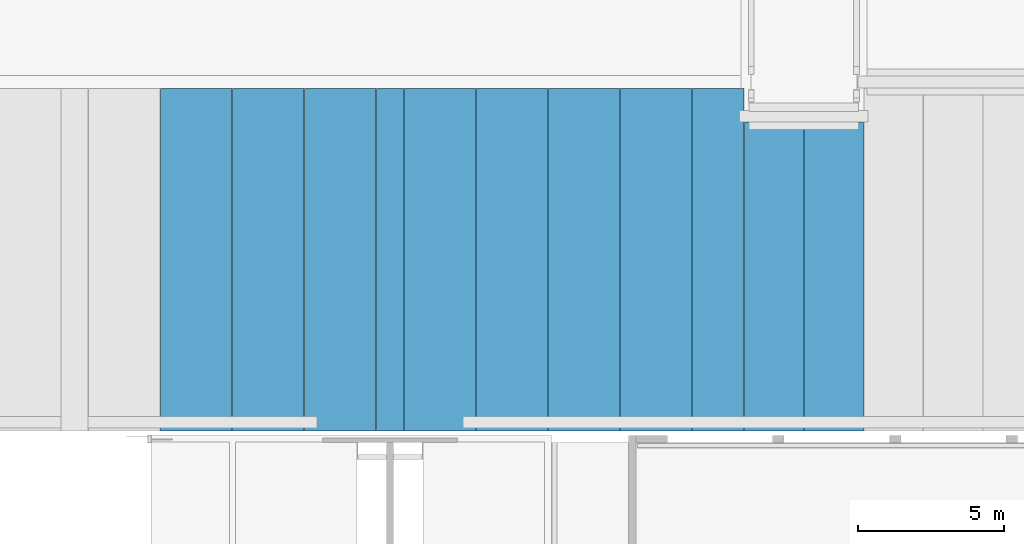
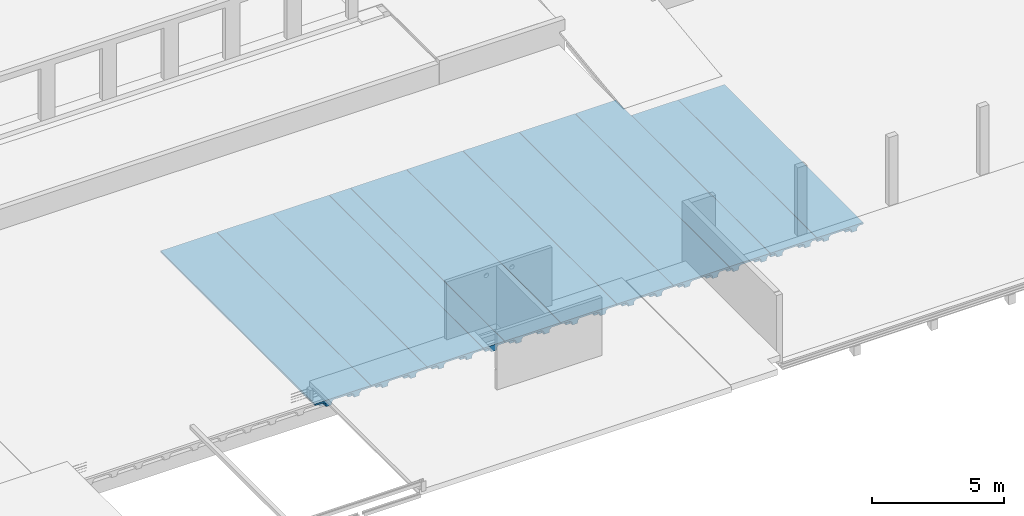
# One storey, part 30 of 36: 11 beams.
"""IFC2X3 building model written with IfcOpenShell, lengths in millimetres."""

import ifcopenshell
import ifcopenshell.guid

model = None  # the IFC model being written
_history = None  # IfcOwnerHistory: only IFC2X3 demands one
_inside = {}  # id of a spatial element -> (the spatial element, [elements in it])
_under = {}  # id of a project, library or spatial element -> (it, [spatial elements below it])
_declared = {}  # id of a project -> (the project, [libraries it declares])
_typed = {}  # id of a type object -> (the type object, [elements of that type])
_made_of = {}  # id of a material, layer set ... -> (it, [elements and type objects made of it])


def new_model(schema):
    """Start an empty IFC model of exactly this schema.

    Asked for "IFC4X3", IfcOpenShell would pick the latest addendum, in which some entities
    have other attributes; the version numbers below select the first issue.
    IFC2X3 requires an IfcOwnerHistory on every rooted entity: one is made here for all.
    """
    global model, _history
    if schema == "IFC4X3":
        model = ifcopenshell.file(schema_version=(4, 3, 0, 0))
    else:
        model = ifcopenshell.file(schema=schema)
    _inside.clear()
    _under.clear()
    _declared.clear()
    _typed.clear()
    _made_of.clear()
    _history = None
    if model.schema == "IFC2X3":
        org = make("IfcOrganization", Name="unknown")
        user = make(
            "IfcPersonAndOrganization",
            ThePerson=make("IfcPerson", FamilyName="unknown"),
            TheOrganization=org,
        )
        app = make(
            "IfcApplication",
            ApplicationDeveloper=org,
            Version="unknown",
            ApplicationFullName="unknown",
            ApplicationIdentifier="unknown",
        )
        _history = make(
            "IfcOwnerHistory",
            OwningUser=user,
            OwningApplication=app,
            ChangeAction="ADDED",
            CreationDate=0,
        )
    return model


def make(cls, **values):
    """One entity of the class cls with the attributes given. An attribute that is None is left unset."""
    return model.create_entity(
        cls, **{name: value for name, value in values.items() if value is not None}
    )


def entity(cls, *values):
    """Any entity or typed value of the class cls, its attributes in the order of the schema. None: left unset."""
    e = model.create_entity(cls)
    for i, value in enumerate(values):
        if value is not None:
            e[i] = value
    return e


def rooted(cls, **values):
    """An entity with a GlobalId (a new one), such as an element, a storey or a relation."""
    return make(cls, GlobalId=ifcopenshell.guid.new(), OwnerHistory=_history, **values)


def si_unit(unit_type, name, prefix=None):
    """IfcSIUnit, for example si_unit("LENGTHUNIT", "METRE", prefix="MILLI")."""
    return make("IfcSIUnit", UnitType=unit_type, Prefix=prefix, Name=name)


def converted_unit(unit_type, name, factor, base, dimensions=None, offset=None):
    """IfcConversionBasedUnit, such as the inch: factor (a typed value) times the base unit."""
    return make(
        "IfcConversionBasedUnit"
        if offset is None
        else "IfcConversionBasedUnitWithOffset",
        ConversionOffset=offset,
        Dimensions=None
        if dimensions is None
        else entity("IfcDimensionalExponents", *dimensions),
        UnitType=unit_type,
        Name=name,
        ConversionFactor=make(
            "IfcMeasureWithUnit", ValueComponent=factor, UnitComponent=base
        ),
    )


def derived_unit(unit_type, elements):
    """IfcDerivedUnit: a product of units, each with its exponent."""
    return make(
        "IfcDerivedUnit",
        Elements=[
            make("IfcDerivedUnitElement", Unit=unit, Exponent=power)
            for unit, power in elements
        ],
        UnitType=unit_type,
    )


def assignment(units):
    """IfcUnitAssignment: the units of a project."""
    return None if units is None else make("IfcUnitAssignment", Units=units)


def point(xyz):
    """IfcCartesianPoint."""
    return None if xyz is None else make("IfcCartesianPoint", Coordinates=xyz)


def direction(xyz):
    """IfcDirection."""
    return None if xyz is None else make("IfcDirection", DirectionRatios=xyz)


def frame(location, z_axis=None, x_axis=None):
    """IfcAxis2Placement3D, a coordinate frame: its origin and axes. An axis left out is left unset."""
    return make(
        "IfcAxis2Placement3D",
        Location=point(location),
        Axis=direction(z_axis),
        RefDirection=direction(x_axis),
    )


def origin():
    """The frame at (0, 0, 0) with its axes left unset."""
    return frame((0.0, 0.0, 0.0))


def place(relative_to, where):
    """IfcLocalPlacement: puts the frame where relative to a parent placement (None: the world)."""
    return make(
        "IfcLocalPlacement", PlacementRelTo=relative_to, RelativePlacement=where
    )


def context(
    kind, dimensions, precision=None, world=None, true_north=None, identifier=None
):
    """IfcGeometricRepresentationContext, for example the 3D "Model" context."""
    return make(
        "IfcGeometricRepresentationContext",
        ContextIdentifier=identifier,
        ContextType=kind,
        CoordinateSpaceDimension=dimensions,
        Precision=precision,
        WorldCoordinateSystem=world,
        TrueNorth=true_north,
    )


def subcontext(parent, identifier, kind, view, scale=None):
    """IfcGeometricRepresentationSubContext, for example "Body" below "Model"."""
    return make(
        "IfcGeometricRepresentationSubContext",
        ContextIdentifier=identifier,
        ContextType=kind,
        ParentContext=parent,
        TargetScale=scale,
        TargetView=view,
    )


def project(units=None, contexts=None):
    """IfcProject with its units and contexts."""
    return rooted(
        "IfcProject",
        Name="project",
        RepresentationContexts=contexts,
        UnitsInContext=assignment(units),
    )


def spatial(cls, under=None, at=None, **own):
    """A site, building, storey or space (cls), placed at a placement, below another one or the project."""
    s = rooted(cls, ObjectPlacement=at, **own)
    if under is not None:
        _under.setdefault(under.id(), (under, []))[1].append(s)
    return s


def faces_of(points, faces, orient=None, outer=None):
    """IfcFace entities. A face is a list of loops; a loop is a list of indices into points, from 0.

    orient and outer hold one flag for each loop. By default every Orientation is true, the
    first loop of a face is its IfcFaceOuterBound and the others are IfcFaceBound.
    """
    made = []
    for i, loops in enumerate(faces):
        bounds = []
        for j, loop in enumerate(loops):
            is_outer = j == 0 if outer is None else outer[i][j]
            bounds.append(
                make(
                    "IfcFaceOuterBound" if is_outer else "IfcFaceBound",
                    Bound=make("IfcPolyLoop", Polygon=[points[k] for k in loop]),
                    Orientation=True if orient is None else orient[i][j],
                )
            )
        made.append(make("IfcFace", Bounds=bounds))
    return made


def faceted_brep(points, faces, orient=None, outer=None, voids=None):
    """IfcFacetedBrep: a solid bounded by flat faces; with voids (closed shells), ...WithVoids."""
    shared = [point(p) for p in points]
    hull = make("IfcClosedShell", CfsFaces=faces_of(shared, faces, orient, outer))
    if voids is None:
        return make("IfcFacetedBrep", Outer=hull)
    return make(
        "IfcFacetedBrepWithVoids",
        Outer=hull,
        Voids=[
            make(cls, CfsFaces=faces_of(shared, fs, o, b)) for cls, fs, o, b in voids
        ],
    )


def shape(context_of_items, identifier, shape_type, items):
    """IfcShapeRepresentation: the items that make up one representation, for example the "Body"."""
    return make(
        "IfcShapeRepresentation",
        ContextOfItems=context_of_items,
        RepresentationIdentifier=identifier,
        RepresentationType=shape_type,
        Items=items,
    )


def material(Name=None, Category=None):
    """IfcMaterial."""
    return make("IfcMaterial", Name=Name, Category=Category)


def made_of(thing, what):
    """Note that an element or type object is made of a material, layer set ...; save() writes the relation."""
    if what is not None:
        _made_of.setdefault(what.id(), (what, []))[1].append(thing)
    return thing


def type_object(cls, material=None, **own):
    """A type object (cls), such as IfcWallType, which elements share."""
    return made_of(rooted(cls, **own), material)


def element(
    cls,
    number,
    at=None,
    inside=None,
    cuts=None,
    type_object=None,
    material=None,
    context=None,
    identifier="Body",
    shape_type=None,
    held_by="IfcProductDefinitionShape",
    body=None,
    shapes=None,
    **own,
):
    """One element of the class cls, such as IfcWall. Its Tag is "e" and its number.

    at: its placement. inside: the storey or other place that contains it. cuts: it is an
    opening in that element (IfcRelVoidsElement). A single representation is given by context,
    identifier, shape_type and body (its items); several are given by shapes. held_by: the class
    of the entity that holds the representations. save() writes the other relations.
    """
    e = rooted(cls, Tag="e%d" % number, ObjectPlacement=at, **own)
    if body is not None:
        shapes = [shape(context, identifier, shape_type, body)]
    if shapes is not None:
        e.Representation = make(held_by, Representations=shapes)
    if inside is not None:
        _inside.setdefault(inside.id(), (inside, []))[1].append(e)
    if cuts is not None:
        rooted(
            "IfcRelVoidsElement", RelatingBuildingElement=cuts, RelatedOpeningElement=e
        )
    if type_object is not None:
        _typed.setdefault(type_object.id(), (type_object, []))[1].append(e)
    return made_of(e, material)


def aggregate(whole, parts):
    """IfcRelAggregates: a whole, such as a stair, and the parts it consists of."""
    return rooted("IfcRelAggregates", RelatingObject=whole, RelatedObjects=parts)


def save(model, path):
    """Write the relations noted so far, then the file.

    IfcRelAggregates (storeys below a building ...), IfcRelContainedInSpatialStructure (elements
    in a storey), IfcRelDefinesByType, IfcRelAssociatesMaterial and IfcRelDeclares: one each for
    every whole, place, type object, material and project.
    """
    for whole, parts in _under.values():
        aggregate(whole, parts)
    for where, things in _inside.values():
        rooted(
            "IfcRelContainedInSpatialStructure",
            RelatedElements=things,
            RelatingStructure=where,
        )
    for kind, things in _typed.values():
        rooted("IfcRelDefinesByType", RelatedObjects=things, RelatingType=kind)
    for what, things in _made_of.values():
        rooted("IfcRelAssociatesMaterial", RelatedObjects=things, RelatingMaterial=what)
    for by, libraries in _declared.values():
        rooted("IfcRelDeclares", RelatingContext=by, RelatedDefinitions=libraries)
    model.write(path)


model = new_model("IFC2X3")

# Units and contexts
model_context = context("Model", 3, precision=0.01, world=origin(), true_north=direction((6.12303176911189e-17, 1.0)))
body_context = subcontext(model_context, "Body", "Model", "MODEL_VIEW")
ifc_project = project(units=[si_unit("LENGTHUNIT", "METRE", prefix="MILLI"), si_unit("AREAUNIT", "SQUARE_METRE"), si_unit("VOLUMEUNIT", "CUBIC_METRE"), converted_unit("PLANEANGLEUNIT", "DEGREE", entity("IfcRatioMeasure", 0.0174532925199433), si_unit("PLANEANGLEUNIT", "RADIAN"), dimensions=[0, 0, 0, 0, 0, 0, 0]), si_unit("MASSUNIT", "GRAM", prefix="KILO"), derived_unit("MASSDENSITYUNIT", [(si_unit("MASSUNIT", "GRAM", prefix="KILO"), 1), (si_unit("LENGTHUNIT", "METRE"), -3)]), si_unit("TIMEUNIT", "SECOND"), si_unit("FREQUENCYUNIT", "HERTZ"), si_unit("THERMODYNAMICTEMPERATUREUNIT", "DEGREE_CELSIUS"), derived_unit("THERMALTRANSMITTANCEUNIT", [(si_unit("MASSUNIT", "GRAM", prefix="KILO"), 1), (si_unit("THERMODYNAMICTEMPERATUREUNIT", "KELVIN"), -1), (si_unit("TIMEUNIT", "SECOND"), -3)]), derived_unit("VOLUMETRICFLOWRATEUNIT", [(si_unit("LENGTHUNIT", "METRE"), 3), (si_unit("TIMEUNIT", "SECOND"), -1)]), si_unit("ELECTRICCURRENTUNIT", "AMPERE"), si_unit("ELECTRICVOLTAGEUNIT", "VOLT"), si_unit("POWERUNIT", "WATT"), si_unit("FORCEUNIT", "NEWTON", prefix="KILO"), si_unit("ILLUMINANCEUNIT", "LUX"), si_unit("LUMINOUSFLUXUNIT", "LUMEN"), si_unit("LUMINOUSINTENSITYUNIT", "CANDELA"), derived_unit("USERDEFINED", [(si_unit("MASSUNIT", "GRAM", prefix="KILO"), -1), (si_unit("LENGTHUNIT", "METRE"), -2), (si_unit("TIMEUNIT", "SECOND"), 3), (si_unit("LUMINOUSFLUXUNIT", "LUMEN"), 1)]), derived_unit("LINEARVELOCITYUNIT", [(si_unit("LENGTHUNIT", "METRE"), 1), (si_unit("TIMEUNIT", "SECOND"), -1)]), si_unit("PRESSUREUNIT", "PASCAL"), derived_unit("USERDEFINED", [(si_unit("LENGTHUNIT", "METRE"), -2), (si_unit("MASSUNIT", "GRAM", prefix="KILO"), 1), (si_unit("TIMEUNIT", "SECOND"), -2)])], contexts=[model_context])

# Site, building, storey
site_placement = place(None, origin())
site = spatial("IfcSite", under=ifc_project, at=site_placement, Name="Default", CompositionType="ELEMENT")
building_placement = place(site_placement, origin())
building = spatial("IfcBuilding", under=site, at=building_placement, Name="niet gebruiken", CompositionType="ELEMENT")
storey_placement = place(building_placement, frame((0.0, 0.0, 12600.0)))
storey = spatial("IfcBuildingStorey", under=building, at=storey_placement, Name="04 vierde verdieping", CompositionType="ELEMENT", Elevation=12600.0)

# Beams
ifc_material = material(Name="NLRS_f2_beton prefab")
beam_type_1 = type_object("IfcBeamType", Name="NLRS_28.11_SF_WPB_tt-plaatvloer Holcon 102B_gen:TT-plaat, b=2460", PredefinedType="BEAM")
beam_1_placement = place(storey_placement, frame((102375.128403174, 8896.0, -1970.00005888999), z_axis=(0.0, 0.0, 1.0), x_axis=(0.0, -1.0, 0.0)))
element("IfcBeam", 1, at=beam_1_placement, inside=storey, type_object=beam_type_1, material=ifc_material, Name="NLRS_28.11_SF_WPB_tt-plaatvloer Holcon 102B_gen:TT-plaat, b=2460", ObjectType="NLRS_28.11_SF_WPB_tt-plaatvloer Holcon 102B_gen:TT-plaat, b=2460", context=body_context, shape_type="Brep", body=[
    faceted_brep([(-11730.0, 0.0, 610.0), (-11730.0, 0.0, 529.999995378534), (0.0, 0.0, 529.999995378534), (0.0, 0.0, 610.0), (-520.0, 733.513622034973, 320.0), (-520.0, 493.468888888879, 320.0), (-520.0, 518.500000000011, 0.0), (-520.0, 708.482510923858, 0.0), (-11480.0, 501.29111111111, 220.0), (-11480.0, 725.691399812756, 220.0), (-11480.0, 708.482510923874, 0.0), (-11480.0, 518.50000000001, 0.0), (-11730.0, 744.000076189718, 454.059783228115), (-11730.0, 819.940288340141, 529.999995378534), (0.0, 819.940288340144, 529.999995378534), (0.0, 744.000076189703, 454.059783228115), (-11730.0, 1971.01904939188, 454.078756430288), (-11730.0, 2046.94028834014, 529.999995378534), (0.0, 2046.94028834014, 529.999995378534), (0.0, 1971.01904939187, 454.078756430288), (-11730.0, 1634.05971165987, 529.999995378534), (-11730.0, 1709.99992381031, 454.059783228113), (0.0, 1709.99992381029, 454.059783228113), (0.0, 1634.05971165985, 529.999995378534), (-11730.0, 2454.0, 610.0), (-11730.0, 2454.0, 529.999995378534), (-11730.0, 1952.7088888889, 220.0), (-11730.0, 1728.30860018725, 220.0), (-11730.0, 725.691399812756, 220.0), (-11730.0, 501.291111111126, 220.0), (-11730.0, 482.980950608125, 454.078756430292), (-11730.0, 407.059711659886, 529.999995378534), (0.0, 407.059711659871, 529.999995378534), (0.0, 482.980950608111, 454.078756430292), (0.0, 493.46888888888, 320.0), (0.0, 733.513622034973, 320.0), (0.0, 1720.48637796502, 320.0), (0.0, 1960.5311111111, 320.0), (0.0, 2454.0, 529.999995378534), (0.0, 2454.0, 610.0), (-520.0, 1935.5, 0.0), (-520.0, 1745.51748907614, 0.0), (-11480.0, 1745.51748907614, 0.0), (-11480.0, 1935.5, 0.0), (-520.0, 1960.53111111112, 320.0), (-11480.0, 1952.7088888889, 220.0), (-11480.0, 1728.30860018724, 220.0), (-520.0, 1720.48637796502, 320.0)], [[[0, 1, 2, 3]], [[4, 5, 6, 7]], [[8, 9, 10, 11]], [[12, 13, 14, 15]], [[16, 17, 18, 19]], [[20, 21, 22, 23]], [[0, 24, 25, 17, 16, 26, 27, 21, 20, 13, 12, 28, 29, 30, 31, 1]], [[3, 2, 32, 33, 34, 35, 15, 14, 23, 22, 36, 37, 19, 18, 38, 39]], [[1, 31, 32, 2]], [[24, 0, 3, 39]], [[25, 24, 39, 38]], [[17, 25, 38, 18]], [[13, 20, 23, 14]], [[40, 41, 42, 43]], [[16, 19, 37, 44, 40, 43, 45, 26]], [[22, 21, 27, 46, 42, 41, 47, 36]], [[12, 15, 35, 4, 7, 10, 9, 28]], [[7, 6, 11, 10]], [[33, 30, 29, 8, 11, 6, 5, 34]], [[5, 4, 35, 34]], [[9, 8, 29, 28]], [[31, 30, 33, 32]], [[46, 45, 43, 42]], [[45, 46, 27, 26]], [[44, 47, 41, 40]], [[47, 44, 37, 36]]]),
])
beam_2_placement = place(storey_placement, frame((99908.0, 8896.0, -1970.00005888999), z_axis=(0.0, 0.0, 1.0), x_axis=(0.0, -1.0, 0.0)))
element("IfcBeam", 2, at=beam_2_placement, inside=storey, type_object=beam_type_1, material=ifc_material, Name="NLRS_28.11_SF_WPB_tt-plaatvloer Holcon 102B_gen:TT-plaat, b=2460", ObjectType="NLRS_28.11_SF_WPB_tt-plaatvloer Holcon 102B_gen:TT-plaat, b=2460", context=body_context, shape_type="Brep", body=[
    faceted_brep([(-11730.0, 0.0, 610.0), (-11730.0, 0.0, 529.999995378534), (0.0, 0.0, 529.999995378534), (0.0, 0.0, 610.0), (-520.0, 733.513622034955, 320.0), (-520.0, 493.468888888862, 320.0), (-520.0, 518.499999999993, 0.0), (-520.0, 708.482510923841, 0.0), (-11480.0, 501.291111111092, 220.0), (-11480.0, 725.691399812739, 220.0), (-11480.0, 708.482510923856, 0.0), (-11480.0, 518.499999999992, 0.0), (-11730.0, 744.000076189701, 454.059783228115), (-11730.0, 819.940288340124, 529.999995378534), (0.0, 819.940288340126, 529.999995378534), (0.0, 744.000076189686, 454.059783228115), (-11730.0, 1971.01904939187, 454.078756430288), (-11730.0, 2046.94028834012, 529.999995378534), (0.0, 2046.94028834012, 529.999995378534), (0.0, 1971.01904939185, 454.078756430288), (-11730.0, 1634.05971165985, 529.999995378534), (-11730.0, 1709.99992381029, 454.059783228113), (0.0, 1709.99992381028, 454.059783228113), (0.0, 1634.05971165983, 529.999995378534), (-11730.0, 2454.0, 610.0), (-11730.0, 2454.0, 529.999995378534), (-11730.0, 1952.70888888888, 220.0), (-11730.0, 1728.30860018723, 220.0), (-11730.0, 725.691399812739, 220.0), (-11730.0, 501.291111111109, 220.0), (-11730.0, 482.980950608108, 454.078756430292), (-11730.0, 407.059711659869, 529.999995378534), (0.0, 407.059711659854, 529.999995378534), (0.0, 482.980950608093, 454.078756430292), (0.0, 493.468888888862, 320.0), (0.0, 733.513622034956, 320.0), (0.0, 1720.48637796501, 320.0), (0.0, 1960.53111111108, 320.0), (0.0, 2454.0, 529.999995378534), (0.0, 2454.0, 610.0), (-520.0, 1935.49999999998, 0.0), (-520.0, 1745.51748907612, 0.0), (-11480.0, 1745.51748907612, 0.0), (-11480.0, 1935.49999999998, 0.0), (-520.0, 1960.5311111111, 320.0), (-11480.0, 1952.70888888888, 220.0), (-11480.0, 1728.30860018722, 220.0), (-520.0, 1720.486377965, 320.0)], [[[0, 1, 2, 3]], [[4, 5, 6, 7]], [[8, 9, 10, 11]], [[12, 13, 14, 15]], [[16, 17, 18, 19]], [[20, 21, 22, 23]], [[0, 24, 25, 17, 16, 26, 27, 21, 20, 13, 12, 28, 29, 30, 31, 1]], [[3, 2, 32, 33, 34, 35, 15, 14, 23, 22, 36, 37, 19, 18, 38, 39]], [[1, 31, 32, 2]], [[24, 0, 3, 39]], [[25, 24, 39, 38]], [[17, 25, 38, 18]], [[13, 20, 23, 14]], [[40, 41, 42, 43]], [[16, 19, 37, 44, 40, 43, 45, 26]], [[22, 21, 27, 46, 42, 41, 47, 36]], [[12, 15, 35, 4, 7, 10, 9, 28]], [[7, 6, 11, 10]], [[33, 30, 29, 8, 11, 6, 5, 34]], [[5, 4, 35, 34]], [[9, 8, 29, 28]], [[31, 30, 33, 32]], [[45, 46, 27, 26]], [[47, 44, 37, 36]], [[46, 45, 43, 42]], [[44, 47, 41, 40]]]),
])
beam_3_placement = place(storey_placement, frame((97441.2224677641, 8896.0, -1970.00005889), z_axis=(0.0, 0.0, 1.0), x_axis=(0.0, -1.0, 0.0)))
element("IfcBeam", 3, at=beam_3_placement, inside=storey, type_object=beam_type_1, material=ifc_material, Name="NLRS_28.11_SF_WPB_tt-plaatvloer Holcon 102B_gen:TT-plaat, b=2460", ObjectType="NLRS_28.11_SF_WPB_tt-plaatvloer Holcon 102B_gen:TT-plaat, b=2460", context=body_context, shape_type="Brep", body=[
    faceted_brep([(-11730.0, 0.0, 610.0), (-11730.0, 0.0, 529.999995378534), (0.0, 0.0, 529.999995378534), (0.0, 0.0, 610.0), (-520.0, 733.513622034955, 320.0), (-520.0, 493.468888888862, 320.0), (-520.0, 518.499999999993, 0.0), (-520.0, 708.482510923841, 0.0), (-11480.0, 501.291111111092, 220.0), (-11480.0, 725.691399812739, 220.0), (-11480.0, 708.482510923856, 0.0), (-11480.0, 518.499999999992, 0.0), (-11730.0, 744.000076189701, 454.059783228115), (-11730.0, 819.940288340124, 529.999995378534), (0.0, 819.940288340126, 529.999995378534), (0.0, 744.000076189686, 454.059783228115), (-11730.0, 1971.01904939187, 454.078756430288), (-11730.0, 2046.94028834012, 529.999995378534), (0.0, 2046.94028834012, 529.999995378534), (0.0, 1971.01904939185, 454.078756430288), (-11730.0, 1634.05971165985, 529.999995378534), (-11730.0, 1709.99992381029, 454.059783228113), (0.0, 1709.99992381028, 454.059783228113), (0.0, 1634.05971165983, 529.999995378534), (-11730.0, 2454.0, 610.0), (-11730.0, 2454.0, 529.999995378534), (-11730.0, 1952.70888888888, 220.0), (-11730.0, 1728.30860018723, 220.0), (-11730.0, 725.691399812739, 220.0), (-11730.0, 501.291111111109, 220.0), (-11730.0, 482.980950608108, 454.078756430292), (-11730.0, 407.059711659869, 529.999995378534), (0.0, 407.059711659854, 529.999995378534), (0.0, 482.980950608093, 454.078756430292), (0.0, 493.468888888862, 320.0), (0.0, 733.513622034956, 320.0), (0.0, 1720.48637796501, 320.0), (0.0, 1960.53111111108, 320.0), (0.0, 2454.0, 529.999995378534), (0.0, 2454.0, 610.0), (-520.0, 1935.49999999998, 0.0), (-520.0, 1745.51748907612, 0.0), (-11480.0, 1745.51748907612, 0.0), (-11480.0, 1935.49999999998, 0.0), (-520.0, 1960.5311111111, 320.0), (-11480.0, 1952.70888888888, 220.0), (-11480.0, 1728.30860018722, 220.0), (-520.0, 1720.486377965, 320.0)], [[[0, 1, 2, 3]], [[4, 5, 6, 7]], [[8, 9, 10, 11]], [[12, 13, 14, 15]], [[16, 17, 18, 19]], [[20, 21, 22, 23]], [[0, 24, 25, 17, 16, 26, 27, 21, 20, 13, 12, 28, 29, 30, 31, 1]], [[3, 2, 32, 33, 34, 35, 15, 14, 23, 22, 36, 37, 19, 18, 38, 39]], [[1, 31, 32, 2]], [[24, 0, 3, 39]], [[25, 24, 39, 38]], [[17, 25, 38, 18]], [[13, 20, 23, 14]], [[40, 41, 42, 43]], [[16, 19, 37, 44, 40, 43, 45, 26]], [[22, 21, 27, 46, 42, 41, 47, 36]], [[12, 15, 35, 4, 7, 10, 9, 28]], [[7, 6, 11, 10]], [[33, 30, 29, 8, 11, 6, 5, 34]], [[5, 4, 35, 34]], [[9, 8, 29, 28]], [[31, 30, 33, 32]], [[44, 47, 41, 40]], [[46, 45, 43, 42]], [[47, 44, 37, 36]], [[45, 46, 27, 26]]]),
])
beam_4_placement = place(storey_placement, frame((94974.1969365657, 8896.0, -1970.00005889), z_axis=(0.0, 0.0, 1.0), x_axis=(0.0, -1.0, 0.0)))
element("IfcBeam", 4, at=beam_4_placement, inside=storey, type_object=beam_type_1, material=ifc_material, Name="NLRS_28.11_SF_WPB_tt-plaatvloer Holcon 102B_gen:TT-plaat, b=2460", ObjectType="NLRS_28.11_SF_WPB_tt-plaatvloer Holcon 102B_gen:TT-plaat, b=2460", context=body_context, shape_type="Brep", body=[
    faceted_brep([(-11730.0, 0.0, 610.0), (-11730.0, 0.0, 529.999995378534), (0.0, 0.0, 529.999995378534), (0.0, 0.0, 610.0), (-520.0, 733.513622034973, 320.0), (-520.0, 493.468888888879, 320.0), (-520.0, 518.500000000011, 0.0), (-520.0, 708.482510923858, 0.0), (-11480.0, 501.29111111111, 220.0), (-11480.0, 725.691399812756, 220.0), (-11480.0, 708.482510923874, 0.0), (-11480.0, 518.50000000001, 0.0), (-11730.0, 744.000076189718, 454.059783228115), (-11730.0, 819.940288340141, 529.999995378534), (0.0, 819.940288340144, 529.999995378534), (0.0, 744.000076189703, 454.059783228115), (-11730.0, 1971.01904939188, 454.078756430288), (-11730.0, 2046.94028834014, 529.999995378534), (0.0, 2046.94028834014, 529.999995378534), (0.0, 1971.01904939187, 454.078756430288), (-11730.0, 1634.05971165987, 529.999995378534), (-11730.0, 1709.99992381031, 454.059783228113), (0.0, 1709.99992381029, 454.059783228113), (0.0, 1634.05971165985, 529.999995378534), (-11730.0, 2454.0, 610.0), (-11730.0, 2454.0, 529.999995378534), (-11730.0, 1952.7088888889, 220.0), (-11730.0, 1728.30860018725, 220.0), (-11730.0, 725.691399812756, 220.0), (-11730.0, 501.291111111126, 220.0), (-11730.0, 482.980950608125, 454.078756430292), (-11730.0, 407.059711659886, 529.999995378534), (0.0, 407.059711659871, 529.999995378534), (0.0, 482.980950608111, 454.078756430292), (0.0, 493.46888888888, 320.0), (0.0, 733.513622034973, 320.0), (0.0, 1720.48637796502, 320.0), (0.0, 1960.5311111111, 320.0), (0.0, 2454.0, 529.999995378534), (0.0, 2454.0, 610.0), (-520.0, 1935.5, 0.0), (-520.0, 1745.51748907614, 0.0), (-11480.0, 1745.51748907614, 0.0), (-11480.0, 1935.5, 0.0), (-520.0, 1960.53111111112, 320.0), (-11480.0, 1952.7088888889, 220.0), (-11480.0, 1728.30860018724, 220.0), (-520.0, 1720.48637796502, 320.0)], [[[0, 1, 2, 3]], [[4, 5, 6, 7]], [[8, 9, 10, 11]], [[12, 13, 14, 15]], [[16, 17, 18, 19]], [[20, 21, 22, 23]], [[0, 24, 25, 17, 16, 26, 27, 21, 20, 13, 12, 28, 29, 30, 31, 1]], [[3, 2, 32, 33, 34, 35, 15, 14, 23, 22, 36, 37, 19, 18, 38, 39]], [[1, 31, 32, 2]], [[24, 0, 3, 39]], [[25, 24, 39, 38]], [[17, 25, 38, 18]], [[13, 20, 23, 14]], [[40, 41, 42, 43]], [[16, 19, 37, 44, 40, 43, 45, 26]], [[22, 21, 27, 46, 42, 41, 47, 36]], [[12, 15, 35, 4, 7, 10, 9, 28]], [[7, 6, 11, 10]], [[33, 30, 29, 8, 11, 6, 5, 34]], [[5, 4, 35, 34]], [[9, 8, 29, 28]], [[31, 30, 33, 32]], [[47, 44, 37, 36]], [[46, 45, 43, 42]], [[44, 47, 41, 40]], [[45, 46, 27, 26]]]),
])
beam_5_placement = place(storey_placement, frame((91573.7812462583, 8896.0, -1970.0), z_axis=(0.0, 0.0, 1.0), x_axis=(0.0, -1.0, 0.0)))
element("IfcBeam", 5, at=beam_5_placement, inside=storey, type_object=beam_type_1, material=ifc_material, Name="NLRS_28.11_SF_WPB_tt-plaatvloer Holcon 102B_gen:TT-plaat, b=2460", ObjectType="NLRS_28.11_SF_WPB_tt-plaatvloer Holcon 102B_gen:TT-plaat, b=2460", context=body_context, shape_type="Brep", body=[
    faceted_brep([(-11730.0, 0.0, 610.0), (-11730.0, 0.0, 529.999995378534), (0.0, 0.0, 529.999995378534), (0.0, 0.0, 610.0), (-520.0, 733.513622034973, 320.0), (-520.0, 493.468888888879, 320.0), (-520.0, 518.500000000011, 0.0), (-520.0, 708.482510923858, 0.0), (-11480.0, 501.29111111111, 220.0), (-11480.0, 725.691399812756, 220.0), (-11480.0, 708.482510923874, 0.0), (-11480.0, 518.50000000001, 0.0), (-11730.0, 744.000076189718, 454.059783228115), (-11730.0, 819.940288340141, 529.999995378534), (0.0, 819.940288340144, 529.999995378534), (0.0, 744.000076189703, 454.059783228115), (-11730.0, 1971.01904939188, 454.078756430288), (-11730.0, 2046.94028834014, 529.999995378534), (0.0, 2046.94028834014, 529.999995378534), (0.0, 1971.01904939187, 454.078756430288), (-11730.0, 1634.05971165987, 529.999995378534), (-11730.0, 1709.99992381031, 454.059783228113), (0.0, 1709.99992381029, 454.059783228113), (0.0, 1634.05971165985, 529.999995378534), (-11730.0, 2454.0, 610.0), (-11730.0, 2454.0, 529.999995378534), (-11730.0, 1952.7088888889, 220.0), (-11730.0, 1728.30860018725, 220.0), (-11730.0, 725.691399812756, 220.0), (-11730.0, 501.291111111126, 220.0), (-11730.0, 482.980950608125, 454.078756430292), (-11730.0, 407.059711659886, 529.999995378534), (0.0, 407.059711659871, 529.999995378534), (0.0, 482.980950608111, 454.078756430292), (0.0, 493.46888888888, 320.0), (0.0, 733.513622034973, 320.0), (0.0, 1720.48637796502, 320.0), (0.0, 1960.5311111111, 320.0), (0.0, 2454.0, 529.999995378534), (0.0, 2454.0, 610.0), (-520.0, 1935.5, 0.0), (-520.0, 1745.51748907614, 0.0), (-11480.0, 1745.51748907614, 0.0), (-11480.0, 1935.5, 0.0), (-520.0, 1960.53111111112, 320.0), (-11480.0, 1952.7088888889, 220.0), (-11480.0, 1728.30860018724, 220.0), (-520.0, 1720.48637796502, 320.0)], [[[0, 1, 2, 3]], [[4, 5, 6, 7]], [[8, 9, 10, 11]], [[12, 13, 14, 15]], [[16, 17, 18, 19]], [[20, 21, 22, 23]], [[0, 24, 25, 17, 16, 26, 27, 21, 20, 13, 12, 28, 29, 30, 31, 1]], [[3, 2, 32, 33, 34, 35, 15, 14, 23, 22, 36, 37, 19, 18, 38, 39]], [[1, 31, 32, 2]], [[24, 0, 3, 39]], [[25, 24, 39, 38]], [[17, 25, 38, 18]], [[13, 20, 23, 14]], [[40, 41, 42, 43]], [[16, 19, 37, 44, 40, 43, 45, 26]], [[22, 21, 27, 46, 42, 41, 47, 36]], [[12, 15, 35, 4, 7, 10, 9, 28]], [[7, 6, 11, 10]], [[33, 30, 29, 8, 11, 6, 5, 34]], [[5, 4, 35, 34]], [[9, 8, 29, 28]], [[31, 30, 33, 32]], [[44, 47, 41, 40]], [[46, 45, 43, 42]], [[47, 44, 37, 36]], [[45, 46, 27, 26]]]),
])
beam_6_placement = place(storey_placement, frame((89107.4075855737, 8896.0, -1970.0), z_axis=(0.0, 0.0, 1.0), x_axis=(0.0, -1.0, 0.0)))
element("IfcBeam", 6, at=beam_6_placement, inside=storey, type_object=beam_type_1, material=ifc_material, Name="NLRS_28.11_SF_WPB_tt-plaatvloer Holcon 102B_gen:TT-plaat, b=2460", ObjectType="NLRS_28.11_SF_WPB_tt-plaatvloer Holcon 102B_gen:TT-plaat, b=2460", context=body_context, shape_type="Brep", body=[
    faceted_brep([(-11730.0, 0.0, 610.0), (-11730.0, 0.0, 529.999995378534), (0.0, 0.0, 529.999995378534), (0.0, 0.0, 610.0), (-520.0, 733.513622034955, 320.0), (-520.0, 493.468888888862, 320.0), (-520.0, 518.499999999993, 0.0), (-520.0, 708.482510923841, 0.0), (-11480.0, 501.291111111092, 220.0), (-11480.0, 725.691399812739, 220.0), (-11480.0, 708.482510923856, 0.0), (-11480.0, 518.499999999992, 0.0), (-11730.0, 744.000076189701, 454.059783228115), (-11730.0, 819.940288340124, 529.999995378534), (0.0, 819.940288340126, 529.999995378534), (0.0, 744.000076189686, 454.059783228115), (-11730.0, 1971.01904939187, 454.078756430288), (-11730.0, 2046.94028834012, 529.999995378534), (0.0, 2046.94028834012, 529.999995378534), (0.0, 1971.01904939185, 454.078756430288), (-11730.0, 1634.05971165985, 529.999995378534), (-11730.0, 1709.99992381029, 454.059783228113), (0.0, 1709.99992381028, 454.059783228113), (0.0, 1634.05971165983, 529.999995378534), (-11730.0, 2454.0, 610.0), (-11730.0, 2454.0, 529.999995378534), (-11730.0, 1952.70888888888, 220.0), (-11730.0, 1728.30860018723, 220.0), (-11730.0, 725.691399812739, 220.0), (-11730.0, 501.291111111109, 220.0), (-11730.0, 482.980950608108, 454.078756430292), (-11730.0, 407.059711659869, 529.999995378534), (0.0, 407.059711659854, 529.999995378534), (0.0, 482.980950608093, 454.078756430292), (0.0, 493.468888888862, 320.0), (0.0, 733.513622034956, 320.0), (0.0, 1720.48637796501, 320.0), (0.0, 1960.53111111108, 320.0), (0.0, 2454.0, 529.999995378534), (0.0, 2454.0, 610.0), (-520.0, 1935.49999999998, 0.0), (-520.0, 1745.51748907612, 0.0), (-11480.0, 1745.51748907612, 0.0), (-11480.0, 1935.49999999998, 0.0), (-520.0, 1960.5311111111, 320.0), (-11480.0, 1952.70888888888, 220.0), (-11480.0, 1728.30860018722, 220.0), (-520.0, 1720.486377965, 320.0)], [[[0, 1, 2, 3]], [[4, 5, 6, 7]], [[8, 9, 10, 11]], [[12, 13, 14, 15]], [[16, 17, 18, 19]], [[20, 21, 22, 23]], [[0, 24, 25, 17, 16, 26, 27, 21, 20, 13, 12, 28, 29, 30, 31, 1]], [[3, 2, 32, 33, 34, 35, 15, 14, 23, 22, 36, 37, 19, 18, 38, 39]], [[1, 31, 32, 2]], [[24, 0, 3, 39]], [[25, 24, 39, 38]], [[17, 25, 38, 18]], [[13, 20, 23, 14]], [[40, 41, 42, 43]], [[16, 19, 37, 44, 40, 43, 45, 26]], [[22, 21, 27, 46, 42, 41, 47, 36]], [[12, 15, 35, 4, 7, 10, 9, 28]], [[7, 6, 11, 10]], [[33, 30, 29, 8, 11, 6, 5, 34]], [[5, 4, 35, 34]], [[9, 8, 29, 28]], [[31, 30, 33, 32]], [[44, 47, 41, 40]], [[46, 45, 43, 42]], [[47, 44, 37, 36]], [[45, 46, 27, 26]]]),
])
beam_7_placement = place(storey_placement, frame((86640.2248828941, 8896.0, -1970.0), z_axis=(0.0, 0.0, 1.0), x_axis=(0.0, -1.0, 0.0)))
element("IfcBeam", 7, at=beam_7_placement, inside=storey, type_object=beam_type_1, material=ifc_material, Name="NLRS_28.11_SF_WPB_tt-plaatvloer Holcon 102B_gen:TT-plaat, b=2460", ObjectType="NLRS_28.11_SF_WPB_tt-plaatvloer Holcon 102B_gen:TT-plaat, b=2460", context=body_context, shape_type="Brep", body=[
    faceted_brep([(-11730.0, 0.0, 610.0), (-11730.0, 0.0, 529.999995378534), (0.0, 0.0, 529.999995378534), (0.0, 0.0, 610.0), (-520.0, 733.513622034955, 320.0), (-520.0, 493.468888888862, 320.0), (-520.0, 518.499999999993, 0.0), (-520.0, 708.482510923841, 0.0), (-11480.0, 501.291111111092, 220.0), (-11480.0, 725.691399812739, 220.0), (-11480.0, 708.482510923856, 0.0), (-11480.0, 518.499999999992, 0.0), (-11730.0, 744.000076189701, 454.059783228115), (-11730.0, 819.940288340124, 529.999995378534), (0.0, 819.940288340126, 529.999995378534), (0.0, 744.000076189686, 454.059783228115), (-11730.0, 1971.01904939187, 454.078756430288), (-11730.0, 2046.94028834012, 529.999995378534), (0.0, 2046.94028834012, 529.999995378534), (0.0, 1971.01904939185, 454.078756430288), (-11730.0, 1634.05971165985, 529.999995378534), (-11730.0, 1709.99992381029, 454.059783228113), (0.0, 1709.99992381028, 454.059783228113), (0.0, 1634.05971165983, 529.999995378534), (-11730.0, 2454.0, 610.0), (-11730.0, 2454.0, 529.999995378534), (-11730.0, 1952.70888888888, 220.0), (-11730.0, 1728.30860018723, 220.0), (-11730.0, 725.691399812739, 220.0), (-11730.0, 501.291111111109, 220.0), (-11730.0, 482.980950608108, 454.078756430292), (-11730.0, 407.059711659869, 529.999995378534), (0.0, 407.059711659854, 529.999995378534), (0.0, 482.980950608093, 454.078756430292), (0.0, 493.468888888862, 320.0), (0.0, 733.513622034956, 320.0), (0.0, 1720.48637796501, 320.0), (0.0, 1960.53111111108, 320.0), (0.0, 2454.0, 529.999995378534), (0.0, 2454.0, 610.0), (-520.0, 1935.49999999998, 0.0), (-520.0, 1745.51748907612, 0.0), (-11480.0, 1745.51748907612, 0.0), (-11480.0, 1935.49999999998, 0.0), (-520.0, 1960.5311111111, 320.0), (-11480.0, 1952.70888888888, 220.0), (-11480.0, 1728.30860018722, 220.0), (-520.0, 1720.486377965, 320.0)], [[[0, 1, 2, 3]], [[4, 5, 6, 7]], [[8, 9, 10, 11]], [[12, 13, 14, 15]], [[16, 17, 18, 19]], [[20, 21, 22, 23]], [[0, 24, 25, 17, 16, 26, 27, 21, 20, 13, 12, 28, 29, 30, 31, 1]], [[3, 2, 32, 33, 34, 35, 15, 14, 23, 22, 36, 37, 19, 18, 38, 39]], [[1, 31, 32, 2]], [[24, 0, 3, 39]], [[25, 24, 39, 38]], [[17, 25, 38, 18]], [[13, 20, 23, 14]], [[40, 41, 42, 43]], [[16, 19, 37, 44, 40, 43, 45, 26]], [[22, 21, 27, 46, 42, 41, 47, 36]], [[12, 15, 35, 4, 7, 10, 9, 28]], [[7, 6, 11, 10]], [[33, 30, 29, 8, 11, 6, 5, 34]], [[5, 4, 35, 34]], [[9, 8, 29, 28]], [[31, 30, 33, 32]], [[45, 46, 27, 26]], [[47, 44, 37, 36]], [[46, 45, 43, 42]], [[44, 47, 41, 40]]]),
])
beam_type_2 = type_object("IfcBeamType", Name="NLRS_28.11_SF_WPB_tt-plaatvloer Holcon 102B_gen:TT-plaat, b=2040", PredefinedType="BEAM")
beam_8_placement = place(storey_placement, frame((108681.372427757, 8896.0, -1970.00005888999), z_axis=(0.0, 0.0, 1.0), x_axis=(0.0, -1.0, 0.0)))
element("IfcBeam", 8, at=beam_8_placement, inside=storey, type_object=beam_type_2, material=ifc_material, Name="NLRS_28.11_SF_WPB_tt-plaatvloer Holcon 102B_gen:TT-plaat, b=2040", ObjectType="NLRS_28.11_SF_WPB_tt-plaatvloer Holcon 102B_gen:TT-plaat, b=2040", context=body_context, shape_type="Brep", body=[
    faceted_brep([(-10560.0, 0.0, 610.0), (-10560.0, 0.0, 529.999995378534), (0.0, 0.0, 529.999995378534), (0.0, 0.0, 610.0), (-520.0, 523.513622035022, 320.0), (-520.0, 283.468888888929, 320.0), (-520.0, 308.500000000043, 0.0), (-520.0, 498.48251092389, 0.0), (-10310.0, 291.291111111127, 220.0), (-10310.0, 515.691399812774, 220.0), (-10310.0, 498.482510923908, 0.0), (-10310.0, 308.500000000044, 0.0), (-10560.0, 534.000076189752, 454.059783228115), (-10560.0, 609.940288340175, 529.999995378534), (0.0, 609.940288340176, 529.999995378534), (0.0, 534.000076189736, 454.059783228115), (-10560.0, 1761.01904939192, 454.078756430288), (-10560.0, 1836.94028834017, 529.999995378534), (0.0, 1836.94028834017, 529.999995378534), (0.0, 1761.0190493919, 454.078756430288), (-10560.0, 1424.0597116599, 529.999995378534), (-10560.0, 1499.99992381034, 454.059783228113), (0.0, 1499.99992381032, 454.059783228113), (0.0, 1424.05971165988, 529.999995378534), (-10560.0, 2034.0, 610.0), (-10560.0, 2034.0, 529.999995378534), (-10560.0, 1742.70888888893, 220.0), (-10560.0, 1518.30860018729, 220.0), (-10560.0, 515.69139981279, 220.0), (-10560.0, 291.291111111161, 220.0), (-10560.0, 272.98095060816, 454.078756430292), (-10560.0, 197.05971165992, 529.999995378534), (0.0, 197.059711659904, 529.999995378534), (0.0, 272.980950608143, 454.078756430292), (0.0, 283.468888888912, 320.0), (0.0, 523.513622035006, 320.0), (0.0, 1510.48637796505, 320.0), (0.0, 1750.53111111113, 320.0), (0.0, 2034.0, 529.999995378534), (0.0, 2034.0, 610.0), (-520.0, 1725.50000000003, 0.0), (-520.0, 1535.51748907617, 0.0), (-10310.0, 1535.51748907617, 0.0), (-10310.0, 1725.50000000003, 0.0), (-520.0, 1750.53111111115, 320.0), (-10310.0, 1742.70888888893, 220.0), (-10310.0, 1518.30860018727, 220.0), (-520.0, 1510.48637796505, 320.0)], [[[0, 1, 2, 3]], [[4, 5, 6, 7]], [[8, 9, 10, 11]], [[12, 13, 14, 15]], [[16, 17, 18, 19]], [[20, 21, 22, 23]], [[0, 24, 25, 17, 16, 26, 27, 21, 20, 13, 12, 28, 29, 30, 31, 1]], [[3, 2, 32, 33, 34, 35, 15, 14, 23, 22, 36, 37, 19, 18, 38, 39]], [[1, 31, 32, 2]], [[24, 0, 3, 39]], [[25, 24, 39, 38]], [[17, 25, 38, 18]], [[13, 20, 23, 14]], [[40, 41, 42, 43]], [[16, 19, 37, 44, 40, 43, 45, 26]], [[22, 21, 27, 46, 42, 41, 47, 36]], [[12, 15, 35, 4, 7, 10, 9, 28]], [[7, 6, 11, 10]], [[33, 30, 29, 8, 11, 6, 5, 34]], [[5, 4, 35, 34]], [[9, 8, 29, 28]], [[31, 30, 33, 32]], [[44, 47, 41, 40]], [[46, 45, 43, 42]], [[47, 44, 37, 36]], [[45, 46, 27, 26]]]),
])
beam_9_placement = place(storey_placement, frame((106634.875003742, 8896.0, -1970.00005888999), z_axis=(0.0, 0.0, 1.0), x_axis=(0.0, -1.0, 0.0)))
element("IfcBeam", 9, at=beam_9_placement, inside=storey, type_object=beam_type_2, material=ifc_material, Name="NLRS_28.11_SF_WPB_tt-plaatvloer Holcon 102B_gen:TT-plaat, b=2040", ObjectType="NLRS_28.11_SF_WPB_tt-plaatvloer Holcon 102B_gen:TT-plaat, b=2040", context=body_context, shape_type="Brep", body=[
    faceted_brep([(-10560.0, 0.0, 610.0), (-10560.0, 0.0, 529.999995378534), (0.0, 0.0, 529.999995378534), (0.0, 0.0, 610.0), (-520.0, 523.513622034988, 320.0), (-520.0, 283.468888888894, 320.0), (-520.0, 308.500000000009, 0.0), (-520.0, 498.482510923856, 0.0), (-10310.0, 291.291111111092, 220.0), (-10310.0, 515.691399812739, 220.0), (-10310.0, 498.482510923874, 0.0), (-10310.0, 308.500000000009, 0.0), (-10560.0, 534.000076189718, 454.059783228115), (-10560.0, 609.940288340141, 529.999995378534), (0.0, 609.940288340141, 529.999995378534), (0.0, 534.000076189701, 454.059783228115), (-10560.0, 1761.01904939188, 454.078756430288), (-10560.0, 1836.94028834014, 529.999995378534), (0.0, 1836.94028834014, 529.999995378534), (0.0, 1761.01904939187, 454.078756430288), (-10560.0, 1424.05971165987, 529.999995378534), (-10560.0, 1499.99992381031, 454.059783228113), (0.0, 1499.99992381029, 454.059783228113), (0.0, 1424.05971165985, 529.999995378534), (-10560.0, 2034.0, 610.0), (-10560.0, 2034.0, 529.999995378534), (-10560.0, 1742.7088888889, 220.0), (-10560.0, 1518.30860018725, 220.0), (-10560.0, 515.691399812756, 220.0), (-10560.0, 291.291111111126, 220.0), (-10560.0, 272.980950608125, 454.078756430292), (-10560.0, 197.059711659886, 529.999995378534), (0.0, 197.059711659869, 529.999995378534), (0.0, 272.980950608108, 454.078756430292), (0.0, 283.468888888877, 320.0), (0.0, 523.513622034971, 320.0), (0.0, 1510.48637796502, 320.0), (0.0, 1750.5311111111, 320.0), (0.0, 2034.0, 529.999995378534), (0.0, 2034.0, 610.0), (-520.0, 1725.5, 0.0), (-520.0, 1535.51748907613, 0.0), (-10310.0, 1535.51748907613, 0.0), (-10310.0, 1725.5, 0.0), (-520.0, 1750.53111111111, 320.0), (-10310.0, 1742.7088888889, 220.0), (-10310.0, 1518.30860018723, 220.0), (-520.0, 1510.48637796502, 320.0)], [[[0, 1, 2, 3]], [[4, 5, 6, 7]], [[8, 9, 10, 11]], [[12, 13, 14, 15]], [[16, 17, 18, 19]], [[20, 21, 22, 23]], [[0, 24, 25, 17, 16, 26, 27, 21, 20, 13, 12, 28, 29, 30, 31, 1]], [[3, 2, 32, 33, 34, 35, 15, 14, 23, 22, 36, 37, 19, 18, 38, 39]], [[1, 31, 32, 2]], [[24, 0, 3, 39]], [[25, 24, 39, 38]], [[17, 25, 38, 18]], [[13, 20, 23, 14]], [[40, 41, 42, 43]], [[16, 19, 37, 44, 40, 43, 45, 26]], [[22, 21, 27, 46, 42, 41, 47, 36]], [[12, 15, 35, 4, 7, 10, 9, 28]], [[7, 6, 11, 10]], [[33, 30, 29, 8, 11, 6, 5, 34]], [[5, 4, 35, 34]], [[9, 8, 29, 28]], [[31, 30, 33, 32]], [[45, 46, 27, 26]], [[47, 44, 37, 36]], [[46, 45, 43, 42]], [[44, 47, 41, 40]]]),
])
beam_type_3 = type_object("IfcBeamType", Name="NLRS_28.11_SF_WPB_tt-plaatvloer Holcon 102B_gen:TT-plaat, b=1790", PredefinedType="BEAM")
beam_10_placement = place(storey_placement, frame((104840.438891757, 8896.0, -1970.00005888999), z_axis=(0.0, 0.0, 1.0), x_axis=(0.0, -1.0, 0.0)))
element("IfcBeam", 10, at=beam_10_placement, inside=storey, type_object=beam_type_3, material=ifc_material, Name="NLRS_28.11_SF_WPB_tt-plaatvloer Holcon 102B_gen:TT-plaat, b=1790", ObjectType="NLRS_28.11_SF_WPB_tt-plaatvloer Holcon 102B_gen:TT-plaat, b=1790", context=body_context, shape_type="Brep", body=[
    faceted_brep([(-11730.0, 0.0, 610.0), (-11730.0, 0.0, 529.999995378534), (0.0, 0.0, 529.999995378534), (0.0, 0.0, 610.0), (-520.0, 398.513622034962, 320.0), (-520.0, 158.468888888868, 320.0), (-520.0, 183.5, 0.0), (-520.0, 373.482510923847, 0.0), (-11480.0, 166.291111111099, 220.0), (-11480.0, 390.691399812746, 220.0), (-11480.0, 373.482510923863, 0.0), (-11480.0, 183.499999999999, 0.0), (-11730.0, 409.000076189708, 454.059783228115), (-11730.0, 484.940288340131, 529.999995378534), (0.0, 484.940288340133, 529.999995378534), (0.0, 409.000076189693, 454.059783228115), (-11730.0, 1636.01904939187, 454.078756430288), (-11730.0, 1711.94028834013, 529.999995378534), (0.0, 1711.94028834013, 529.999995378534), (0.0, 1636.01904939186, 454.078756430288), (-11730.0, 1299.05971165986, 529.999995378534), (-11730.0, 1374.9999238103, 454.059783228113), (0.0, 1374.99992381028, 454.059783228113), (0.0, 1299.05971165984, 529.999995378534), (-11730.0, 1784.0, 610.0), (-11730.0, 1784.0, 529.999995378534), (-11730.0, 1617.70888888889, 220.0), (-11730.0, 1393.30860018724, 220.0), (-11730.0, 390.691399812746, 220.0), (-11730.0, 166.291111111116, 220.0), (-11730.0, 147.980950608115, 454.078756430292), (-11730.0, 72.0597116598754, 529.999995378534), (0.0, 72.0597116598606, 529.999995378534), (0.0, 147.9809506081, 454.078756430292), (0.0, 158.468888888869, 320.0), (0.0, 398.513622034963, 320.0), (0.0, 1385.48637796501, 320.0), (0.0, 1625.53111111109, 320.0), (0.0, 1784.0, 529.999995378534), (0.0, 1784.0, 610.0), (-520.0, 1600.49999999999, 0.0), (-520.0, 1410.51748907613, 0.0), (-11480.0, 1410.51748907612, 0.0), (-11480.0, 1600.49999999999, 0.0), (-520.0, 1625.5311111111, 320.0), (-11480.0, 1617.70888888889, 220.0), (-11480.0, 1393.30860018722, 220.0), (-520.0, 1385.48637796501, 320.0)], [[[0, 1, 2, 3]], [[4, 5, 6, 7]], [[8, 9, 10, 11]], [[12, 13, 14, 15]], [[16, 17, 18, 19]], [[20, 21, 22, 23]], [[0, 24, 25, 17, 16, 26, 27, 21, 20, 13, 12, 28, 29, 30, 31, 1]], [[3, 2, 32, 33, 34, 35, 15, 14, 23, 22, 36, 37, 19, 18, 38, 39]], [[1, 31, 32, 2]], [[24, 0, 3, 39]], [[25, 24, 39, 38]], [[17, 25, 38, 18]], [[13, 20, 23, 14]], [[40, 41, 42, 43]], [[16, 19, 37, 44, 40, 43, 45, 26]], [[22, 21, 27, 46, 42, 41, 47, 36]], [[12, 15, 35, 4, 7, 10, 9, 28]], [[7, 6, 11, 10]], [[33, 30, 29, 8, 11, 6, 5, 34]], [[5, 4, 35, 34]], [[9, 8, 29, 28]], [[31, 30, 33, 32]], [[47, 44, 37, 36]], [[46, 45, 43, 42]], [[44, 47, 41, 40]], [[45, 46, 27, 26]]]),
])
beam_type_4 = type_object("IfcBeamType", Name="NLRS_28.11_SF_WPB_tt-plaatvloer Holcon 1 ligger_gen:TT-plaat 1 ligger b=930", PredefinedType="BEAM")
beam_11_placement = place(storey_placement, frame((94039.0286131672, 8896.0, -1970.0), z_axis=(0.0, 0.0, 1.0), x_axis=(0.0, -1.0, 0.0)))
element("IfcBeam", 11, at=beam_11_placement, inside=storey, type_object=beam_type_4, material=ifc_material, Name="NLRS_28.11_SF_WPB_tt-plaatvloer Holcon 1 ligger_gen:TT-plaat 1 ligger b=930", ObjectType="NLRS_28.11_SF_WPB_tt-plaatvloer Holcon 1 ligger_gen:TT-plaat 1 ligger b=930", context=body_context, shape_type="Brep", body=[
    faceted_brep([(-11730.0, 0.0, 610.0), (-11730.0, 924.0, 610.0), (-11730.0, 924.0, 529.999995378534), (-11730.0, 668.440288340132, 529.999995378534), (-11730.0, 592.519049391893, 454.078756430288), (-11730.0, 574.208888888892, 220.0), (-11730.0, 349.808600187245, 220.0), (-11730.0, 331.4999238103, 454.059783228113), (-11730.0, 255.559711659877, 529.999995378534), (-11730.0, 0.0, 529.999995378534), (0.0, 331.499923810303, 454.059783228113), (-11480.0, 349.808600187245, 220.0), (-11480.0, 367.017489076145, 0.0), (-520.0, 367.017489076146, 0.0), (-520.0, 341.986377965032, 320.0), (0.0, 341.986377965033, 320.0), (-11480.0, 574.208888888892, 220.0), (0.0, 592.519049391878, 454.078756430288), (0.0, 582.031111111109, 320.0), (-520.0, 582.031111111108, 320.0), (-520.0, 557.0, 0.0), (-11480.0, 557.0, 0.0), (0.0, 0.0, 610.0), (0.0, 0.0, 529.999995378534), (0.0, 255.559711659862, 529.999995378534), (0.0, 668.440288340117, 529.999995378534), (0.0, 924.0, 529.999995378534), (0.0, 924.0, 610.0)], [[[0, 1, 2, 3, 4, 5, 6, 7, 8, 9]], [[10, 7, 6, 11, 12, 13, 14, 15]], [[16, 11, 6, 5]], [[4, 17, 18, 19, 20, 21, 16, 5]], [[22, 23, 24, 10, 15, 18, 17, 25, 26, 27]], [[1, 0, 22, 27]], [[2, 1, 27, 26]], [[3, 2, 26, 25]], [[9, 8, 24, 23]], [[0, 9, 23, 22]], [[20, 13, 12, 21]], [[14, 19, 18, 15]], [[19, 14, 13, 20]], [[11, 16, 21, 12]], [[4, 3, 25, 17]], [[8, 7, 10, 24]]]),
])

save(model, "model.ifc")
